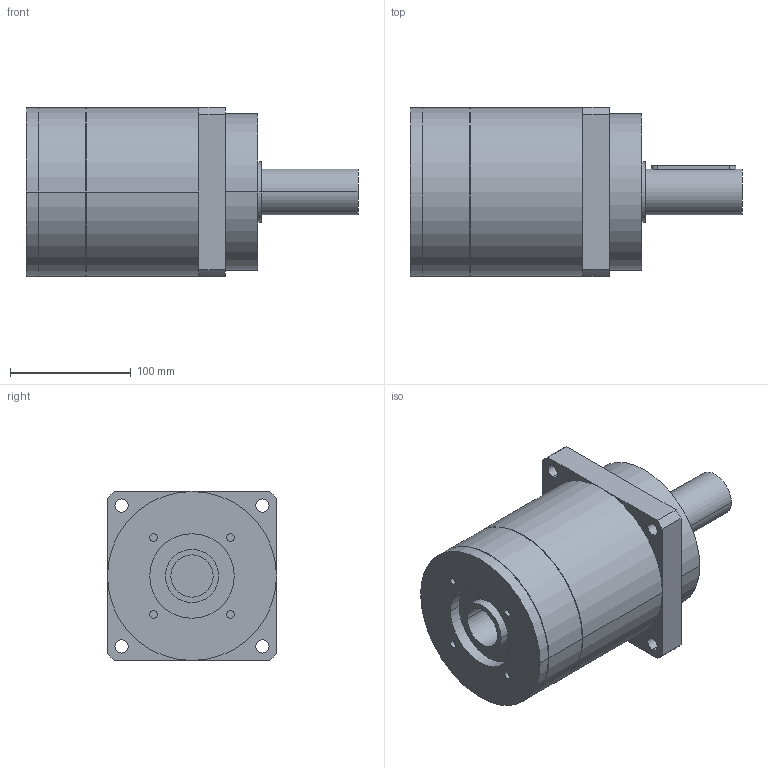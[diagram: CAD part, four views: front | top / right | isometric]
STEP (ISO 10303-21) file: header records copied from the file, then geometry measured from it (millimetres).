
FILE_DESCRIPTION(('CoCreate Modeling STEP Export'),'2;1');
FILE_NAME('GPR150_ig-3-4-5-7_38_B5_35_P15.stp','2014-08-19T16:43:21',(''),(''),'CoCreate Modeling STEP processor for AP214 (Solid Model)','CoCreate Modeling 16.00C 25-Feb-2009 (C) Parametric Technology GmbH','');
FILE_SCHEMA(('AUTOMOTIVE_DESIGN { 1 0 10303 214 1 1 1 1 }'));
Length unit declared in the file: millimetre
Products named in the file (2): GPR150_ig-3-4-5-7_38_B5_35_P15
Assembly tree (1 placements, depth 2):
  GPR150_ig-3-4-5-7_38_B5_35_P15
    GPR150_ig-3-4-5-7_38_B5_35_P15
Bounding box: 275 x 140 x 140 mm (x, y, z)
Volume: 2975514.2 mm3; surface area: 151990.3 mm2
Topology: 1 solids, 1 shells, 85 faces, 217 edges, 149 vertices
Faces by surface type: cylinder 50, plane 29, cone 6
Entity records: 2257 total; most frequent: ORIENTED_EDGE 430, CARTESIAN_POINT 415, DIRECTION 310, EDGE_CURVE 215, VERTEX_POINT 149, AXIS2_PLACEMENT_3D 116, EDGE_LOOP 110, FACE_OUTER_BOUND 85
